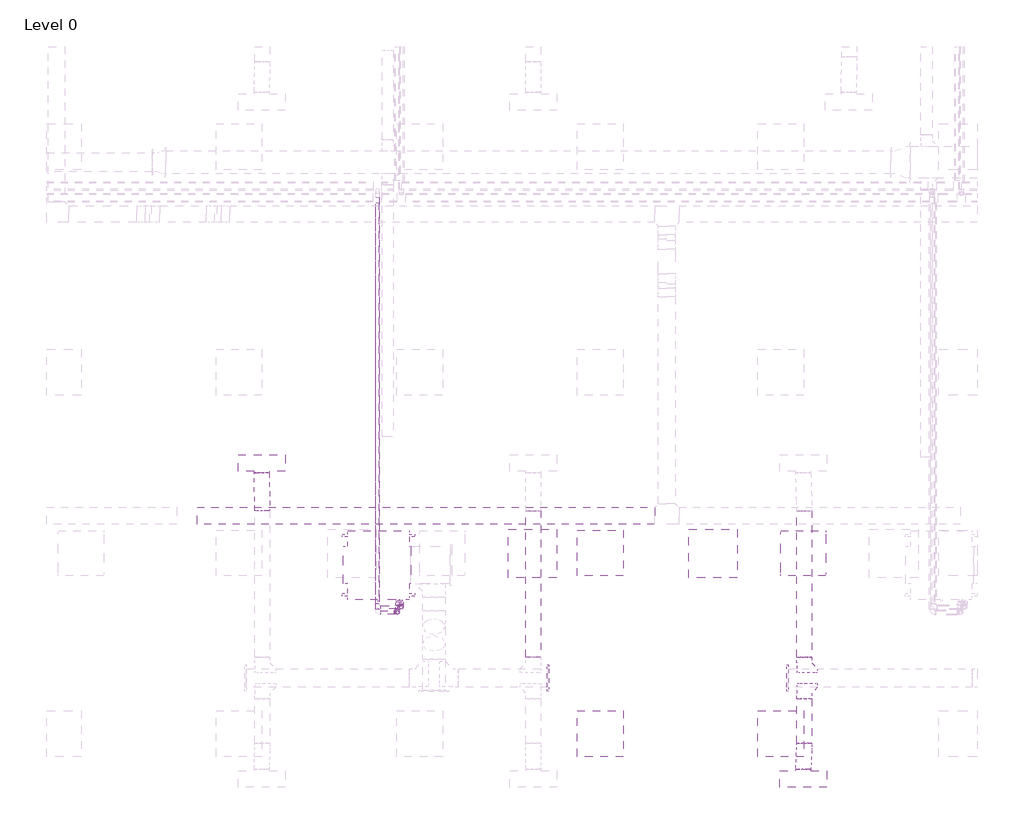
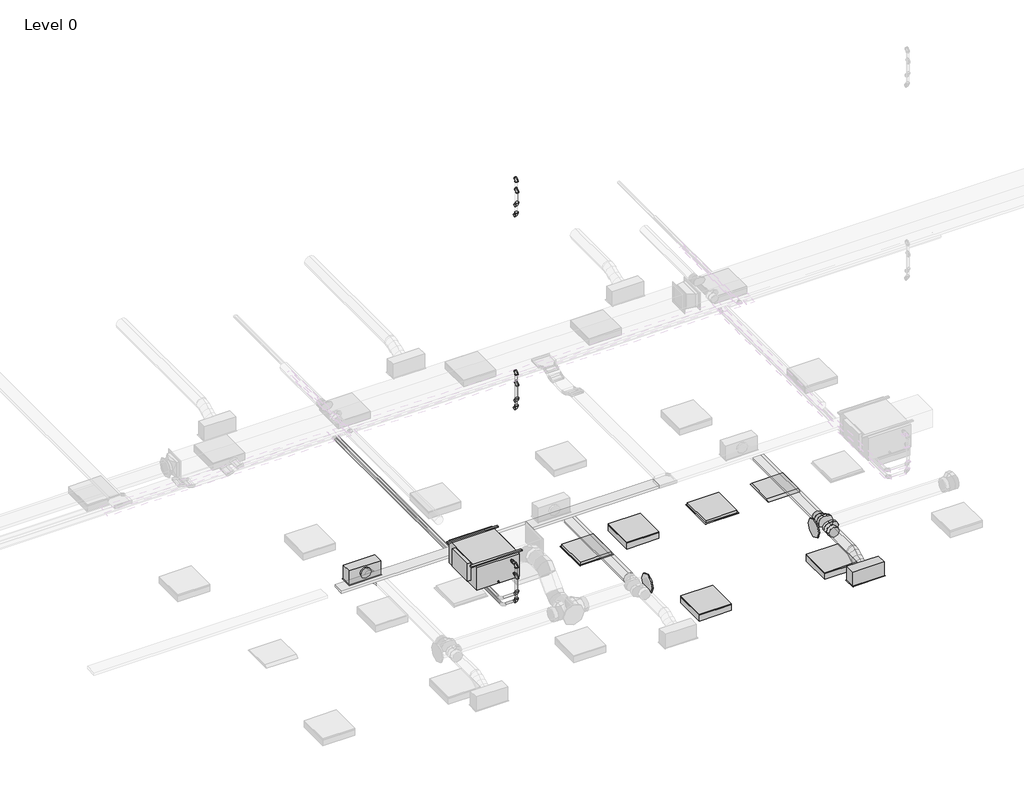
# One storey, part 9 of 34: 14 pipe fittings, 11 pipe segments, 5 duct segments, 4 air terminals, 4 duct fittings, 4 light fixtures, 1 cable carrier segment, 1 proxy.
"""IFC4 building model written with IfcOpenShell, lengths in millimetres."""

from ifc_helpers import new_model, si_unit, point, frame, frame_2d, origin, place, context, project, spatial, polyline, circle_curve, ellipse_curve, trimmed, segment, composite_curve, outline, extrude, transform, mapped, element, save
from ifc_brep_helpers import plane_surface, cylinder_surface, advanced_brep
from components import return_grille_rectangular_hosted_standard_7b12617c, supply_diffuser_with_plenum_linear_slot_hosted_8c379eed, fan_coil_unit_ceiling_ducted_chw_376_lps_05d42c19, dw144_round_blank_end_standard_9aa061e7, dw144_round_shoe_branch_slip_joint1_standard_2_15a2edd8, light_fixture_b730b5ca, troffer_light_2x2_parabolic_2_x2_2_lamp_120v_6a063ff3, elbow_threaded_gmi_standard_b4aa7741, socket_reducing_threaded_gmi_standard_0a4076b8

model = new_model("IFC4")

# Units and contexts
model_context = context("Model", 3, world=origin())
ifc_project = project(units=[si_unit("LENGTHUNIT", "METRE", prefix="MILLI")], contexts=[model_context])

# Site, building, storey
site = spatial("IfcSite", under=ifc_project)
building = spatial("IfcBuilding", under=site)
storey = spatial("IfcBuildingStorey", under=building, Name="Level 0", Elevation=0.0)

# Air terminals
placement = place(None, origin())
return_grille_rectangular_hosted_standard_shape = return_grille_rectangular_hosted_standard_7b12617c(model_context)
element("IfcAirTerminal", 1, ObjectType="Return Grille - Rectangular - Hosted : Standard", at=placement, inside=storey, context=model_context, shape_type="MappedRepresentation", body=[
    mapped(return_grille_rectangular_hosted_standard_shape, transform((19962.2000027, 3963.2000004, 2800.0), x_axis=(1.0, 0.0, 0.0), y_axis=(0.0, -1.0, 0.0), z_axis=(0.0, 0.0, -1.0))),
])
element("IfcAirTerminal", 2, ObjectType="Return Grille - Rectangular - Hosted : Standard", at=placement, inside=storey, context=model_context, shape_type="MappedRepresentation", body=[
    mapped(return_grille_rectangular_hosted_standard_shape, transform((22362.2000027, 3963.2000004, 2800.0), x_axis=(0.0, -1.0, 0.0), y_axis=(-1.0, 0.0, 0.0), z_axis=(0.0, 0.0, -1.0))),
])
supply_diffuser_with_plenum_linear_slot_hosted_shape = supply_diffuser_with_plenum_linear_slot_hosted_8c379eed(model_context)
element("IfcAirTerminal", 3, ObjectType="Supply Diffuser with Plenum - Linear Slot - Hosted : 24\" x 8\"-200 In Inlet  4-Slot", at=placement, inside=storey, context=model_context, shape_type="MappedRepresentation", body=[
    mapped(supply_diffuser_with_plenum_linear_slot_hosted_shape, transform((23562.2000027, 963.2000004, 2800.0), x_axis=(1.0, 0.0, 0.0), y_axis=(0.0, -1.0, 0.0), z_axis=(0.0, 0.0, -1.0))),
])
element("IfcAirTerminal", 4, ObjectType="Supply Diffuser with Plenum - Linear Slot - Hosted : 24\" x 8\"-200 In Inlet  4-Slot", at=placement, inside=storey, context=model_context, shape_type="MappedRepresentation", body=[
    mapped(supply_diffuser_with_plenum_linear_slot_hosted_shape, transform((16362.2000027, 5163.2000004, 2800.0), x_axis=(-1.0, 0.0, 0.0), y_axis=(0.0, 1.0, 0.0), z_axis=(0.0, 0.0, -1.0))),
])

# Proxy
fan_coil_unit_ceiling_ducted_chw_376_lps_shape = fan_coil_unit_ceiling_ducted_chw_376_lps_05d42c19(model_context)
element("IfcBuildingElementProxy", 5, Name="Fan Coil Unit - Ceiling Ducted - CHW : 376 LPS", ObjectType="Fan Coil Unit - Ceiling Ducted - CHW : 376 LPS", at=placement, inside=storey, context=model_context, shape_type="MappedRepresentation", body=[
    mapped(fan_coil_unit_ceiling_ducted_chw_376_lps_shape, transform((18321.2561025, 4263.2000004, 3222.3911538), x_axis=(0.0, -1.0, 0.0), y_axis=(1.0, 0.0, 0.0), z_axis=(0.0, 0.0, 1.0))),
])

# Cable carrier segment
element("IfcCableCarrierSegment", 6, ObjectType="Perforated Cable Tray", at=placement, inside=storey, context=model_context, shape_type="SweptSolid", body=[
    extrude(outline(polyline([(21585.0028601, 4572.4103775), (21585.0028601, 4347.4103775), (15505.0028601, 4347.4103775), (15505.0028601, 4572.4103775), (21585.0028601, 4572.4103775)])), frame((0.0, 0.0, 3250.0), z_axis=(0.0, 0.0, 1.0), x_axis=(1.0, 0.0, 0.0)), (0.0, 0.0, 1.0), 50.0),
])

# Duct fittings
dw144_round_blank_end_standard_shape = dw144_round_blank_end_standard_9aa061e7(model_context)
element("IfcDuctFitting", 7, ObjectType="DW144 Round Blank End : Standard", at=placement, inside=storey, context=model_context, shape_type="MappedRepresentation", body=[
    mapped(dw144_round_blank_end_standard_shape, transform((20161.4561025, 2306.5018192, 3072.2088531), x_axis=(1.0, 0.0, 0.0), y_axis=(0.0, 1.0, 0.0), z_axis=(0.0, 0.0, 1.0))),
])
element("IfcDuctFitting", 8, ObjectType="DW144 Round Blank End : Standard", at=placement, inside=storey, context=model_context, shape_type="MappedRepresentation", body=[
    mapped(dw144_round_blank_end_standard_shape, transform((23361.4561025, 2306.5018192, 3072.2088531), x_axis=(-1.0, 0.0, 0.0), y_axis=(0.0, -1.0, 0.0), z_axis=(0.0, 0.0, 1.0))),
])
dw144_round_shoe_branch_slip_joint1_standard_2_shape = dw144_round_shoe_branch_slip_joint1_standard_2_15a2edd8(model_context)
element("IfcDuctFitting", 9, ObjectType="DW144 Round Shoe Branch - Slip Joint1 : Standard 2", at=placement, inside=storey, context=model_context, shape_type="MappedRepresentation", body=[
    mapped(dw144_round_shoe_branch_slip_joint1_standard_2_shape, transform((23573.9000022, 2181.5018192, 3072.2088531), x_axis=(0.0, -1.0, 0.0), y_axis=(-1.0, 0.0, 0.0), z_axis=(0.0, 0.0, -1.0))),
])
element("IfcDuctFitting", 10, ObjectType="DW144 Round Shoe Branch - Slip Joint1 : Standard 2", at=placement, inside=storey, context=model_context, shape_type="MappedRepresentation", body=[
    mapped(dw144_round_shoe_branch_slip_joint1_standard_2_shape, transform((23573.9000022, 2431.5018192, 3072.2088531), x_axis=(0.0, 1.0, 0.0), y_axis=(-1.0, 0.0, 0.0), z_axis=(0.0, 0.0, 1.0))),
])

# Duct segments
element("IfcDuctSegment", 11, ObjectType="DW144 Segmented Bend / Shoe Branch", at=placement, inside=storey, context=model_context, shape_type="SweptSolid", body=[
    extrude(outline(composite_curve([segment(trimmed(circle_curve(frame_2d((3072.2088531, 19973.9000022)), 100.0), [point((3072.2088531, 20073.9000022))], [point((3172.2088531, 19973.9000022))], False, "CARTESIAN"), True, "CONTINUOUS"), segment(trimmed(circle_curve(frame_2d((3072.2088531, 19973.9000022)), 100.0), [point((3172.2088531, 19973.9000022))], [point((3072.2088531, 19873.9000022))], False, "CARTESIAN"), True, "CONTINUOUS"), segment(trimmed(circle_curve(frame_2d((3072.2088531, 19973.9000022)), 100.0), [point((3072.2088531, 19873.9000022))], [point((2972.2088531, 19973.9000022))], False, "CARTESIAN"), True, "CONTINUOUS"), segment(trimmed(circle_curve(frame_2d((3072.2088531, 19973.9000022)), 100.0), [point((2972.2088531, 19973.9000022))], [point((3072.2088531, 20073.9000022))], False, "CARTESIAN"), True, "CONTINUOUS")], self_intersect=False)), frame((0.0, 2581.5018192, 0.0), z_axis=(0.0, 1.0, 0.0), x_axis=(0.0, 0.0, 1.0)), (0.0, 0.0, 1.0), 1950.0),
])
element("IfcDuctSegment", 12, ObjectType="DW144 Segmented Bend / Shoe Branch", at=placement, inside=storey, context=model_context, shape_type="SweptSolid", body=[
    extrude(outline(composite_curve([segment(trimmed(circle_curve(frame_2d((3072.2088531, 23573.9000022)), 100.0), [point((3072.2088531, 23673.9000022))], [point((3172.2088531, 23573.9000022))], False, "CARTESIAN"), True, "CONTINUOUS"), segment(trimmed(circle_curve(frame_2d((3072.2088531, 23573.9000022)), 100.0), [point((3172.2088531, 23573.9000022))], [point((3072.2088531, 23473.9000022))], False, "CARTESIAN"), True, "CONTINUOUS"), segment(trimmed(circle_curve(frame_2d((3072.2088531, 23573.9000022)), 100.0), [point((3072.2088531, 23473.9000022))], [point((2972.2088531, 23573.9000022))], False, "CARTESIAN"), True, "CONTINUOUS"), segment(trimmed(circle_curve(frame_2d((3072.2088531, 23573.9000022)), 100.0), [point((2972.2088531, 23573.9000022))], [point((3072.2088531, 23673.9000022))], False, "CARTESIAN"), True, "CONTINUOUS")], self_intersect=False)), frame((0.0, 1441.5018192, 0.0), z_axis=(0.0, 1.0, 0.0), x_axis=(0.0, 0.0, 1.0)), (0.0, 0.0, 1.0), 590.0),
])
element("IfcDuctSegment", 13, ObjectType="DW144 Segmented Bend / Shoe Branch", at=placement, inside=storey, context=model_context, shape_type="SweptSolid", body=[
    extrude(outline(composite_curve([segment(trimmed(circle_curve(frame_2d((3072.2088531, 23573.9000022)), 100.0), [point((3072.2088531, 23673.9000022))], [point((3172.2088531, 23573.9000022))], False, "CARTESIAN"), True, "CONTINUOUS"), segment(trimmed(circle_curve(frame_2d((3072.2088531, 23573.9000022)), 100.0), [point((3172.2088531, 23573.9000022))], [point((3072.2088531, 23473.9000022))], False, "CARTESIAN"), True, "CONTINUOUS"), segment(trimmed(circle_curve(frame_2d((3072.2088531, 23573.9000022)), 100.0), [point((3072.2088531, 23473.9000022))], [point((2972.2088531, 23573.9000022))], False, "CARTESIAN"), True, "CONTINUOUS"), segment(trimmed(circle_curve(frame_2d((3072.2088531, 23573.9000022)), 100.0), [point((2972.2088531, 23573.9000022))], [point((3072.2088531, 23673.9000022))], False, "CARTESIAN"), True, "CONTINUOUS")], self_intersect=False)), frame((0.0, 2581.5018192, 0.0), z_axis=(0.0, 1.0, 0.0), x_axis=(0.0, 0.0, 1.0)), (0.0, 0.0, 1.0), 1950.0),
])
element("IfcDuctSegment", 14, ObjectType="Flex - Round", at=placement, inside=storey, context=model_context, shape_type="AdvancedBrep", body=[
    advanced_brep(
    [(16273.9000022, 4531.5018192, 3072.2088531), (16373.9000022, 4531.5018192, 2972.2088531), (16473.9000022, 4531.5018192, 3072.2088531), (16373.9000022, 4531.5018192, 3172.2088531), (16273.9000022, 4545.0398748, 3072.2088531), (16373.9000022, 4537.729612, 2972.2088531), (16473.9000022, 4546.6519942, 3072.2088531), (16373.9000022, 4553.962257, 3172.2088531), (16262.2000027, 5034.3000004, 2954.4), (16362.2000027, 5034.3000004, 3054.4), (16462.2000027, 5034.3000004, 2954.4), (16362.2000027, 5034.3000004, 2854.4), (16272.0969471, 4656.1396088, 3054.0536514), (16372.3243089, 4634.8198875, 2956.3429867), (16472.0468075, 4660.8412095, 3053.5487883), (16371.8194457, 4682.1609309, 3151.2594529), (16268.0984043, 4779.8283707, 3013.7917909), (16368.5373668, 4751.9631047, 2918.2117629), (16468.0016006, 4785.9734489, 3012.8170622), (16367.5626381, 4813.8387149, 3108.3970903), (16264.0531974, 4904.9606101, 2973.0600649), (16364.2805591, 4883.6408888, 2875.3494002), (16464.0030578, 4909.6622108, 2972.5552017), (16363.775696, 4930.9819322, 3070.2658664), (16262.2000027, 5019.1498254, 2954.4), (16362.2000027, 5011.8395627, 2854.4), (16462.2000027, 5020.7619448, 2954.4), (16362.2000027, 5028.0722076, 3054.4)],
    [
        (0, 1, circle_curve(frame((16373.9000022, 4531.5018192, 3072.2088531), z_axis=(0.0, -1.0, 0.0), x_axis=(-1.0, 0.0, 0.0)), 100.0)),
        (1, 2, circle_curve(frame((16373.9000022, 4531.5018192, 3072.2088531), z_axis=(0.0, -1.0, 0.0), x_axis=(-1.0, 0.0, 0.0)), 100.0)),
        (2, 3, circle_curve(frame((16373.9000022, 4531.5018192, 3072.2088531), z_axis=(0.0, -1.0, 0.0), x_axis=(-1.0, 0.0, 0.0)), 100.0)),
        (3, 0, circle_curve(frame((16373.9000022, 4531.5018192, 3072.2088531), z_axis=(0.0, -1.0, 0.0), x_axis=(-1.0, 0.0, 0.0)), 100.0)),
        (0, 4),
        (4, 5, ellipse_curve(frame((16373.9000022, 4545.8459345, 3072.2088531), z_axis=(0.008033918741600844, -0.9966902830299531, 0.08089459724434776), x_axis=(-0.09850014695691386, -0.08129255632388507, -0.9918110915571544)), 100.3320708, 100.0)),
        (5, 1),
        (5, 6, ellipse_curve(frame((16373.9000022, 4545.8459345, 3072.2088531), z_axis=(0.008033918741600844, -0.9966902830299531, 0.08089459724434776), x_axis=(-0.09850014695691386, -0.08129255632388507, -0.9918110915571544)), 100.3320708, 100.0)),
        (6, 2),
        (6, 7, ellipse_curve(frame((16373.9000022, 4545.8459345, 3072.2088531), z_axis=(0.008033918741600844, -0.9966902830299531, 0.08089459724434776), x_axis=(-0.09850014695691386, -0.08129255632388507, -0.9918110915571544)), 100.3320708, 100.0)),
        (7, 3),
        (7, 4, ellipse_curve(frame((16373.9000022, 4545.8459345, 3072.2088531), z_axis=(0.008033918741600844, -0.9966902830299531, 0.08089459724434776), x_axis=(-0.09850014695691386, -0.08129255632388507, -0.9918110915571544)), 100.3320708, 100.0)),
        (8, 9, circle_curve(frame((16362.2000027, 5034.3000004, 2954.4), z_axis=(0.0, 1.0, 0.0), x_axis=(-1.0, 0.0, 0.0)), 100.0)),
        (9, 10, circle_curve(frame((16362.2000027, 5034.3000004, 2954.4), z_axis=(0.0, 1.0, 0.0), x_axis=(-1.0, 0.0, 0.0)), 100.0)),
        (10, 11, circle_curve(frame((16362.2000027, 5034.3000004, 2954.4), z_axis=(0.0, 1.0, 0.0), x_axis=(-1.0, 0.0, 0.0)), 100.0)),
        (11, 8, circle_curve(frame((16362.2000027, 5034.3000004, 2954.4), z_axis=(0.0, 1.0, 0.0), x_axis=(-1.0, 0.0, 0.0)), 100.0)),
        (4, 12),
        (12, 13, ellipse_curve(frame((16372.0718773, 4658.4904092, 3053.8012198), z_axis=(0.023438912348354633, -0.9714680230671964, 0.23600952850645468), x_axis=(-0.09600750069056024, -0.237170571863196, -0.9667123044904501)), 100.2947714, 100.0)),
        (13, 5),
        (13, 14, ellipse_curve(frame((16372.0718773, 4658.4904092, 3053.8012198), z_axis=(0.023438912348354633, -0.9714680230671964, 0.23600952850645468), x_axis=(-0.09600750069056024, -0.237170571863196, -0.9667123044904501)), 100.2947714, 100.0)),
        (14, 6),
        (14, 15, ellipse_curve(frame((16372.0718773, 4658.4904092, 3053.8012198), z_axis=(0.023438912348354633, -0.9714680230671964, 0.23600952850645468), x_axis=(-0.09600750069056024, -0.237170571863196, -0.9667123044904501)), 100.2947714, 100.0)),
        (15, 7),
        (15, 12, ellipse_curve(frame((16372.0718773, 4658.4904092, 3053.8012198), z_axis=(0.023438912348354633, -0.9714680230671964, 0.23600952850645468), x_axis=(-0.09600750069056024, -0.237170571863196, -0.9667123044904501)), 100.2947714, 100.0)),
        (12, 16),
        (16, 17, circle_curve(frame((16368.0500024, 4782.9009098, 3013.3044266), z_axis=(0.03072539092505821, -0.9504426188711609, 0.3093780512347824), x_axis=(-0.999515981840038, -0.030725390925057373, 0.0048736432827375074)), 100.0)),
        (17, 13),
        (17, 18, circle_curve(frame((16368.0500024, 4782.9009098, 3013.3044266), z_axis=(0.03072539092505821, -0.9504426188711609, 0.3093780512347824), x_axis=(-0.999515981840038, -0.030725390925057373, 0.0048736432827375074)), 100.0)),
        (18, 14),
        (18, 19, circle_curve(frame((16368.0500024, 4782.9009098, 3013.3044266), z_axis=(0.03072539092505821, -0.9504426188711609, 0.3093780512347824), x_axis=(-0.999515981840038, -0.030725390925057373, 0.0048736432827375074)), 100.0)),
        (19, 15),
        (19, 16, circle_curve(frame((16368.0500024, 4782.9009098, 3013.3044266), z_axis=(0.03072539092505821, -0.9504426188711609, 0.3093780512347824), x_axis=(-0.999515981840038, -0.030725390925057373, 0.0048736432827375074)), 100.0)),
        (16, 20),
        (20, 21, ellipse_curve(frame((16364.0281276, 4907.3114105, 2972.8076333), z_axis=(0.023438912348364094, -0.9714680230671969, 0.23600952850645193), x_axis=(0.0960075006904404, 0.23717057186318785, 0.966712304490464)), 100.2947714, 100.0)),
        (21, 17),
        (21, 22, ellipse_curve(frame((16364.0281276, 4907.3114105, 2972.8076333), z_axis=(0.023438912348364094, -0.9714680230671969, 0.23600952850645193), x_axis=(0.0960075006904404, 0.23717057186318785, 0.966712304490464)), 100.2947714, 100.0)),
        (22, 18),
        (22, 23, ellipse_curve(frame((16364.0281276, 4907.3114105, 2972.8076333), z_axis=(0.023438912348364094, -0.9714680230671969, 0.23600952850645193), x_axis=(0.0960075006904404, 0.23717057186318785, 0.966712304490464)), 100.2947714, 100.0)),
        (23, 19),
        (23, 20, ellipse_curve(frame((16364.0281276, 4907.3114105, 2972.8076333), z_axis=(0.023438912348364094, -0.9714680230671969, 0.23600952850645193), x_axis=(0.0960075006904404, 0.23717057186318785, 0.966712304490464)), 100.2947714, 100.0)),
        (20, 24),
        (24, 25, ellipse_curve(frame((16362.2000027, 5019.9558851, 2954.4), z_axis=(0.008033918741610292, -0.9966902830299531, 0.08089459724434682), x_axis=(0.09850014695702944, 0.0812925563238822, 0.9918110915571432)), 100.3320708, 100.0)),
        (25, 21),
        (25, 26, ellipse_curve(frame((16362.2000027, 5019.9558851, 2954.4), z_axis=(0.008033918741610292, -0.9966902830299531, 0.08089459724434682), x_axis=(0.09850014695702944, 0.0812925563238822, 0.9918110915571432)), 100.3320708, 100.0)),
        (26, 22),
        (26, 27, ellipse_curve(frame((16362.2000027, 5019.9558851, 2954.4), z_axis=(0.008033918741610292, -0.9966902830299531, 0.08089459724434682), x_axis=(0.09850014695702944, 0.0812925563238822, 0.9918110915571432)), 100.3320708, 100.0)),
        (27, 23),
        (27, 24, ellipse_curve(frame((16362.2000027, 5019.9558851, 2954.4), z_axis=(0.008033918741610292, -0.9966902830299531, 0.08089459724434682), x_axis=(0.09850014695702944, 0.0812925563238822, 0.9918110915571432)), 100.3320708, 100.0)),
        (24, 8),
        (11, 25),
        (10, 26),
        (9, 27),
    ],
    [
        plane_surface(frame((16273.9000022, 4531.5018192, 3072.2088531), z_axis=(0.0, -1.0, 0.0), x_axis=(0.0, 0.0, 1.0))),
        cylinder_surface(frame((16373.9000022, 4531.5018192, 3072.2088531), z_axis=(0.0, -1.0, 0.0), x_axis=(-1.0, 0.0, 0.0)), 100.0),
        plane_surface(frame((16262.2000027, 5034.3000004, 2954.4), z_axis=(0.0, 1.0, 0.0), x_axis=(0.0, 0.0, 1.0))),
        cylinder_surface(frame((16373.9000022, 4545.8459345, 3072.2088531), z_axis=(0.01601465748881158, -0.9867830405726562, 0.16125371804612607), x_axis=(-0.9998709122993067, -0.01601465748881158, 0.0012998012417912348)), 100.0),
        cylinder_surface(frame((16372.0718773, 4658.4904092, 3053.8012198), z_axis=(0.03072539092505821, -0.9504426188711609, 0.3093780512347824), x_axis=(-0.999515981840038, -0.030725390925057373, 0.0048736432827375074)), 100.0),
        cylinder_surface(frame((16368.0500024, 4782.9009098, 3013.3044266), z_axis=(0.030725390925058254, -0.9504426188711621, 0.30937805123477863), x_axis=(-0.999515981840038, -0.0307253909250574, 0.004873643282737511)), 100.0),
        cylinder_surface(frame((16364.0281276, 4907.3114105, 2972.8076333), z_axis=(0.016014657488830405, -0.9867830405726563, 0.16125371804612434), x_axis=(-0.9998709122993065, -0.016014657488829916, 0.0012998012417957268)), 100.0),
        cylinder_surface(frame((16362.2000027, 5019.9558851, 2954.4), z_axis=(0.0, -1.0, 0.0), x_axis=(-1.0, 0.0, 0.0)), 100.0),
    ],
    [
        (0, [[1, 2, 3, 4]]),
        (1, [[-1, 5, 6, 7]]),
        (1, [[-2, -7, 8, 9]]),
        (1, [[-3, -9, 10, 11]]),
        (1, [[-4, -11, 12, -5]]),
        (2, [[13, 14, 15, 16]]),
        (3, [[-6, 17, 18, 19]]),
        (3, [[-8, -19, 20, 21]]),
        (3, [[-10, -21, 22, 23]]),
        (3, [[-12, -23, 24, -17]]),
        (4, [[-18, 25, 26, 27]]),
        (4, [[-20, -27, 28, 29]]),
        (4, [[-22, -29, 30, 31]]),
        (4, [[-24, -31, 32, -25]]),
        (5, [[-26, 33, 34, 35]]),
        (5, [[-28, -35, 36, 37]]),
        (5, [[-30, -37, 38, 39]]),
        (5, [[-32, -39, 40, -33]]),
        (6, [[-34, 41, 42, 43]]),
        (6, [[-36, -43, 44, 45]]),
        (6, [[-38, -45, 46, 47]]),
        (6, [[-40, -47, 48, -41]]),
        (7, [[-42, 49, -16, 50]]),
        (7, [[-44, -50, -15, 51]]),
        (7, [[-46, -51, -14, 52]]),
        (7, [[-48, -52, -13, -49]]),
    ],
),
])
element("IfcDuctSegment", 15, ObjectType="Flex - Round", at=placement, inside=storey, context=model_context, shape_type="AdvancedBrep", body=[
    advanced_brep(
    [(23673.9000022, 1441.5018192, 3072.2088531), (23573.9000022, 1441.5018192, 2972.2088531), (23473.9000022, 1441.5018192, 3072.2088531), (23573.9000022, 1441.5018192, 3172.2088531), (23673.9000022, 1419.9886644, 3072.2088531), (23573.9000022, 1434.4041273, 2972.2088531), (23473.9000022, 1422.5932881, 3072.2088531), (23573.9000022, 1408.1778252, 3172.2088531), (23662.2000027, 1092.1000004, 2954.4), (23562.2000027, 1092.1000004, 3054.4), (23462.2000027, 1092.1000004, 2954.4), (23562.2000027, 1092.1000004, 2854.4), (23672.0154345, 1348.8904029, 3053.2328893), (23572.6402079, 1386.8764181, 2959.5238159), (23472.1283201, 1355.7538157, 3054.3695504), (23571.5035467, 1317.7678004, 3148.0786237), (23667.9552415, 1262.5544078, 3012.3502664), (23569.0041626, 1309.5595036, 2922.9119919), (23468.1447633, 1271.0474118, 3014.2585867), (23567.0958423, 1224.0423161, 3103.6968612), (23663.9716847, 1177.8480039, 2972.2393027), (23564.5964582, 1215.8340192, 2878.5302294), (23464.0845704, 1184.7114168, 2973.3759639), (23563.459797, 1146.7254015, 3067.0850372), (23662.2000027, 1111.0085316, 2954.4), (23562.2000027, 1125.4239944, 2854.4), (23462.2000027, 1113.6131552, 2954.4), (23562.2000027, 1099.1976924, 3054.4)],
    [
        (0, 1, circle_curve(frame((23573.9000022, 1441.5018192, 3072.2088531), z_axis=(0.0, 1.0, 0.0), x_axis=(1.0, 0.0, 0.0)), 100.0)),
        (1, 2, circle_curve(frame((23573.9000022, 1441.5018192, 3072.2088531), z_axis=(0.0, 1.0, 0.0), x_axis=(1.0, 0.0, 0.0)), 100.0)),
        (2, 3, circle_curve(frame((23573.9000022, 1441.5018192, 3072.2088531), z_axis=(0.0, 1.0, 0.0), x_axis=(1.0, 0.0, 0.0)), 100.0)),
        (3, 0, circle_curve(frame((23573.9000022, 1441.5018192, 3072.2088531), z_axis=(0.0, 1.0, 0.0), x_axis=(1.0, 0.0, 0.0)), 100.0)),
        (0, 4),
        (4, 5, ellipse_curve(frame((23573.9000022, 1421.2909763, 3072.2088531), z_axis=(0.012911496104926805, 0.991428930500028, 0.13000757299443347), x_axis=(-0.0979801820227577, 0.13064714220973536, -0.986575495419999)), 100.8645168, 100.0)),
        (5, 1),
        (5, 6, ellipse_curve(frame((23573.9000022, 1421.2909763, 3072.2088531), z_axis=(0.012911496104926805, 0.991428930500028, 0.13000757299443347), x_axis=(-0.0979801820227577, 0.13064714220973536, -0.986575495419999)), 100.8645168, 100.0)),
        (6, 2),
        (6, 7, ellipse_curve(frame((23573.9000022, 1421.2909763, 3072.2088531), z_axis=(0.012911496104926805, 0.991428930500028, 0.13000757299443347), x_axis=(-0.0979801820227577, 0.13064714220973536, -0.986575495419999)), 100.8645168, 100.0)),
        (7, 3),
        (7, 4, ellipse_curve(frame((23573.9000022, 1421.2909763, 3072.2088531), z_axis=(0.012911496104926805, 0.991428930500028, 0.13000757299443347), x_axis=(-0.0979801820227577, 0.13064714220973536, -0.986575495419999)), 100.8645168, 100.0)),
        (8, 9, circle_curve(frame((23562.2000027, 1092.1000004, 2954.4), z_axis=(0.0, -1.0, 0.0), x_axis=(1.0, 0.0, 0.0)), 100.0)),
        (9, 10, circle_curve(frame((23562.2000027, 1092.1000004, 2954.4), z_axis=(0.0, -1.0, 0.0), x_axis=(1.0, 0.0, 0.0)), 100.0)),
        (10, 11, circle_curve(frame((23562.2000027, 1092.1000004, 2954.4), z_axis=(0.0, -1.0, 0.0), x_axis=(1.0, 0.0, 0.0)), 100.0)),
        (11, 8, circle_curve(frame((23562.2000027, 1092.1000004, 2954.4), z_axis=(0.0, -1.0, 0.0), x_axis=(1.0, 0.0, 0.0)), 100.0)),
        (4, 12),
        (12, 13, ellipse_curve(frame((23572.0718773, 1352.3221093, 3053.8012198), z_axis=(0.03417490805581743, 0.9383065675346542, 0.34411169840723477), x_axis=(-0.09273024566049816, 0.34580454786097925, -0.9337131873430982)), 100.4159667, 100.0)),
        (13, 5),
        (13, 14, ellipse_curve(frame((23572.0718773, 1352.3221093, 3053.8012198), z_axis=(0.03417490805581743, 0.9383065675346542, 0.34411169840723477), x_axis=(-0.09273024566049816, 0.34580454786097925, -0.9337131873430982)), 100.4159667, 100.0)),
        (14, 6),
        (14, 15, ellipse_curve(frame((23572.0718773, 1352.3221093, 3053.8012198), z_axis=(0.03417490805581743, 0.9383065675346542, 0.34411169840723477), x_axis=(-0.09273024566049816, 0.34580454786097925, -0.9337131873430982)), 100.4159667, 100.0)),
        (15, 7),
        (15, 12, ellipse_curve(frame((23572.0718773, 1352.3221093, 3053.8012198), z_axis=(0.03417490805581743, 0.9383065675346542, 0.34411169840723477), x_axis=(-0.09273024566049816, 0.34580454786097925, -0.9337131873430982)), 100.4159667, 100.0)),
        (12, 16),
        (16, 17, circle_curve(frame((23568.0500024, 1266.8009098, 3013.3044266), z_axis=(0.04246501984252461, 0.9029767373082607, 0.42758593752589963), x_axis=(0.9990523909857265, -0.042465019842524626, -0.009541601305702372)), 100.0)),
        (17, 13),
        (17, 18, circle_curve(frame((23568.0500024, 1266.8009098, 3013.3044266), z_axis=(0.04246501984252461, 0.9029767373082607, 0.42758593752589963), x_axis=(0.9990523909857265, -0.042465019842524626, -0.009541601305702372)), 100.0)),
        (18, 14),
        (18, 19, circle_curve(frame((23568.0500024, 1266.8009098, 3013.3044266), z_axis=(0.04246501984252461, 0.9029767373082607, 0.42758593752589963), x_axis=(0.9990523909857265, -0.042465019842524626, -0.009541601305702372)), 100.0)),
        (19, 15),
        (19, 16, circle_curve(frame((23568.0500024, 1266.8009098, 3013.3044266), z_axis=(0.04246501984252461, 0.9029767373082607, 0.42758593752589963), x_axis=(0.9990523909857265, -0.042465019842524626, -0.009541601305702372)), 100.0)),
        (16, 20),
        (20, 21, ellipse_curve(frame((23564.0281276, 1181.2797104, 2972.8076333), z_axis=(0.03417490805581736, 0.9383065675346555, 0.34411169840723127), x_axis=(0.09273024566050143, -0.345804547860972, 0.9337131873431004)), 100.4159667, 100.0)),
        (21, 17),
        (21, 22, ellipse_curve(frame((23564.0281276, 1181.2797104, 2972.8076333), z_axis=(0.03417490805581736, 0.9383065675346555, 0.34411169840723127), x_axis=(0.09273024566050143, -0.345804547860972, 0.9337131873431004)), 100.4159667, 100.0)),
        (22, 18),
        (22, 23, ellipse_curve(frame((23564.0281276, 1181.2797104, 2972.8076333), z_axis=(0.03417490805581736, 0.9383065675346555, 0.34411169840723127), x_axis=(0.09273024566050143, -0.345804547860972, 0.9337131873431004)), 100.4159667, 100.0)),
        (23, 19),
        (23, 20, ellipse_curve(frame((23564.0281276, 1181.2797104, 2972.8076333), z_axis=(0.03417490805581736, 0.9383065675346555, 0.34411169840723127), x_axis=(0.09273024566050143, -0.345804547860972, 0.9337131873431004)), 100.4159667, 100.0)),
        (20, 24),
        (24, 25, ellipse_curve(frame((23562.2000027, 1112.3108434, 2954.4), z_axis=(0.012911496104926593, 0.9914289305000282, 0.13000757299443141), x_axis=(0.09798018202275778, -0.1306471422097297, 0.9865754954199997)), 100.8645168, 100.0)),
        (25, 21),
        (25, 26, ellipse_curve(frame((23562.2000027, 1112.3108434, 2954.4), z_axis=(0.012911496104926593, 0.9914289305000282, 0.13000757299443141), x_axis=(0.09798018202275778, -0.1306471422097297, 0.9865754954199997)), 100.8645168, 100.0)),
        (26, 22),
        (26, 27, ellipse_curve(frame((23562.2000027, 1112.3108434, 2954.4), z_axis=(0.012911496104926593, 0.9914289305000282, 0.13000757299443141), x_axis=(0.09798018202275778, -0.1306471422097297, 0.9865754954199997)), 100.8645168, 100.0)),
        (27, 23),
        (27, 24, ellipse_curve(frame((23562.2000027, 1112.3108434, 2954.4), z_axis=(0.012911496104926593, 0.9914289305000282, 0.13000757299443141), x_axis=(0.09798018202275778, -0.1306471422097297, 0.9865754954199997)), 100.8645168, 100.0)),
        (24, 8),
        (11, 25),
        (10, 26),
        (9, 27),
    ],
    [
        plane_surface(frame((23473.9000022, 1441.5018192, 3072.2088531), z_axis=(0.0, 1.0, 0.0), x_axis=(0.0, 0.0, -1.0))),
        cylinder_surface(frame((23573.9000022, 1441.5018192, 3072.2088531), z_axis=(0.0, 1.0, 0.0), x_axis=(1.0, 0.0, 0.0)), 100.0),
        plane_surface(frame((23462.2000027, 1092.1000004, 2954.4), z_axis=(0.0, -1.0, 0.0), x_axis=(0.0, 0.0, -1.0))),
        cylinder_surface(frame((23573.9000022, 1421.2909763, 3072.2088531), z_axis=(0.025601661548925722, 0.9658626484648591, 0.25778653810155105), x_axis=(0.999666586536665, -0.025601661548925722, -0.00335718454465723)), 100.0),
        cylinder_surface(frame((23572.0718773, 1352.3221093, 3053.8012198), z_axis=(0.04246501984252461, 0.9029767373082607, 0.42758593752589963), x_axis=(0.9990523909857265, -0.042465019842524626, -0.009541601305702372)), 100.0),
        cylinder_surface(frame((23568.0500024, 1266.8009098, 3013.3044266), z_axis=(0.04246501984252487, 0.9029767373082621, 0.4275859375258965), x_axis=(0.9990523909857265, -0.04246501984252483, -0.009541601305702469)), 100.0),
        cylinder_surface(frame((23564.0281276, 1181.2797104, 2972.8076333), z_axis=(0.025601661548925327, 0.9658626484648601, 0.2577865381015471), x_axis=(0.9996665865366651, -0.025601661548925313, -0.003357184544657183)), 100.0),
        cylinder_surface(frame((23562.2000027, 1112.3108434, 2954.4), z_axis=(0.0, 1.0, 0.0), x_axis=(1.0, 0.0, 0.0)), 100.0),
    ],
    [
        (0, [[1, 2, 3, 4]]),
        (1, [[-1, 5, 6, 7]]),
        (1, [[-2, -7, 8, 9]]),
        (1, [[-3, -9, 10, 11]]),
        (1, [[-4, -11, 12, -5]]),
        (2, [[13, 14, 15, 16]]),
        (3, [[-6, 17, 18, 19]]),
        (3, [[-8, -19, 20, 21]]),
        (3, [[-10, -21, 22, 23]]),
        (3, [[-12, -23, 24, -17]]),
        (4, [[-18, 25, 26, 27]]),
        (4, [[-20, -27, 28, 29]]),
        (4, [[-22, -29, 30, 31]]),
        (4, [[-24, -31, 32, -25]]),
        (5, [[-26, 33, 34, 35]]),
        (5, [[-28, -35, 36, 37]]),
        (5, [[-30, -37, 38, 39]]),
        (5, [[-32, -39, 40, -33]]),
        (6, [[-34, 41, 42, 43]]),
        (6, [[-36, -43, 44, 45]]),
        (6, [[-38, -45, 46, 47]]),
        (6, [[-40, -47, 48, -41]]),
        (7, [[-42, 49, -16, 50]]),
        (7, [[-44, -50, -15, 51]]),
        (7, [[-46, -51, -14, 52]]),
        (7, [[-48, -52, -13, -49]]),
    ],
),
])

# Light fixtures
light_fixture_shape = light_fixture_b730b5ca(model_context)
element("IfcLightFixture", 16, ObjectType="ELEKTRA EM Recessed Lighting Fixture : 24\" x 24\" - 230", at=placement, inside=storey, context=model_context, shape_type="MappedRepresentation", body=[
    mapped(light_fixture_shape, transform((23262.2000027, 3663.2000004, 2800.0), x_axis=(1.0, 0.0, 0.0), y_axis=(0.0, -1.0, 0.0), z_axis=(0.0, 0.0, -1.0))),
])
troffer_light_2x2_parabolic_2_x2_2_lamp_120v_shape = troffer_light_2x2_parabolic_2_x2_2_lamp_120v_6a063ff3(model_context)
element("IfcLightFixture", 17, ObjectType="Troffer Light - 2x2 Parabolic : 2'x2'(2 Lamp) - 120V", at=placement, inside=storey, context=model_context, shape_type="MappedRepresentation", body=[
    mapped(troffer_light_2x2_parabolic_2_x2_2_lamp_120v_shape, transform((20862.2000027, 1263.2000004, 2800.0), x_axis=(1.0, 0.0, 0.0), y_axis=(0.0, -1.0, 0.0), z_axis=(0.0, 0.0, -1.0))),
])
element("IfcLightFixture", 18, ObjectType="Troffer Light - 2x2 Parabolic : 2'x2'(2 Lamp) - 120V", at=placement, inside=storey, context=model_context, shape_type="MappedRepresentation", body=[
    mapped(troffer_light_2x2_parabolic_2_x2_2_lamp_120v_shape, transform((23262.2000027, 1263.2000004, 2800.0), x_axis=(1.0, 0.0, 0.0), y_axis=(0.0, -1.0, 0.0), z_axis=(0.0, 0.0, -1.0))),
])
element("IfcLightFixture", 19, ObjectType="Troffer Light - 2x2 Parabolic : 2'x2'(2 Lamp) - 120V", at=placement, inside=storey, context=model_context, shape_type="MappedRepresentation", body=[
    mapped(troffer_light_2x2_parabolic_2_x2_2_lamp_120v_shape, transform((20862.2000027, 3663.2000004, 2800.0), x_axis=(1.0, 0.0, 0.0), y_axis=(0.0, -1.0, 0.0), z_axis=(0.0, 0.0, -1.0))),
])

# Pipe fittings
elbow_threaded_gmi_standard_shape = elbow_threaded_gmi_standard_b4aa7741(model_context)
element("IfcPipeFitting", 20, ObjectType="Elbow - Threaded - GMI : Standard", at=placement, inside=storey, context=model_context, shape_type="MappedRepresentation", body=[
    mapped(elbow_threaded_gmi_standard_shape, transform((18168.8561025, 3177.232951, 10693.9343179), x_axis=(0.0, 0.0, -1.0), y_axis=(-1.0, 0.0, 0.0), z_axis=(0.0, 1.0, 0.0))),
])
element("IfcPipeFitting", 21, ObjectType="Elbow - Threaded - GMI : Standard", at=placement, inside=storey, context=model_context, shape_type="MappedRepresentation", body=[
    mapped(elbow_threaded_gmi_standard_shape, transform((18219.6561025, 3246.7427522, 10834.6193977), x_axis=(0.0, 0.0, -1.0), y_axis=(-1.0, 0.0, 0.0), z_axis=(0.0, 1.0, 0.0))),
])
element("IfcPipeFitting", 22, ObjectType="Elbow - Threaded - GMI : Standard", at=placement, inside=storey, context=model_context, shape_type="MappedRepresentation", body=[
    mapped(elbow_threaded_gmi_standard_shape, transform((18219.6561025, 3246.7427522, 11123.9911538), x_axis=(0.0, 0.0, 1.0), y_axis=(0.0, 1.0, 0.0), z_axis=(-1.0, 0.0, 0.0))),
])
element("IfcPipeFitting", 23, ObjectType="Elbow - Threaded - GMI : Standard", at=placement, inside=storey, context=model_context, shape_type="MappedRepresentation", body=[
    mapped(elbow_threaded_gmi_standard_shape, transform((18168.8561025, 3177.232951, 11403.3911538), x_axis=(0.0, 0.0, 1.0), y_axis=(0.0, 1.0, 0.0), z_axis=(-1.0, 0.0, 0.0))),
])
element("IfcPipeFitting", 24, ObjectType="Elbow - Threaded - GMI : Standard", at=placement, inside=storey, context=model_context, shape_type="MappedRepresentation", body=[
    mapped(elbow_threaded_gmi_standard_shape, transform((18168.8561025, 3177.232951, 6793.9343179), x_axis=(0.0, 0.0, -1.0), y_axis=(-1.0, 0.0, 0.0), z_axis=(0.0, 1.0, 0.0))),
])
element("IfcPipeFitting", 25, ObjectType="Elbow - Threaded - GMI : Standard", at=placement, inside=storey, context=model_context, shape_type="MappedRepresentation", body=[
    mapped(elbow_threaded_gmi_standard_shape, transform((18219.6561025, 3246.7427522, 6880.0), x_axis=(0.0, 0.0, -1.0), y_axis=(-1.0, 0.0, 0.0), z_axis=(0.0, 1.0, 0.0))),
])
element("IfcPipeFitting", 26, ObjectType="Elbow - Threaded - GMI : Standard", at=placement, inside=storey, context=model_context, shape_type="MappedRepresentation", body=[
    mapped(elbow_threaded_gmi_standard_shape, transform((18168.8561025, 3177.232951, 7503.3911538), x_axis=(0.0, 0.0, 1.0), y_axis=(0.0, 1.0, 0.0), z_axis=(-1.0, 0.0, 0.0))),
])
element("IfcPipeFitting", 27, ObjectType="Elbow - Threaded - GMI : Standard", at=placement, inside=storey, context=model_context, shape_type="MappedRepresentation", body=[
    mapped(elbow_threaded_gmi_standard_shape, transform((18219.6561025, 3246.7427522, 7223.9911538), x_axis=(0.0, 0.0, 1.0), y_axis=(0.0, 1.0, 0.0), z_axis=(-1.0, 0.0, 0.0))),
])
element("IfcPipeFitting", 28, ObjectType="Elbow - Threaded - GMI : Standard", at=placement, inside=storey, context=model_context, shape_type="MappedRepresentation", body=[
    mapped(elbow_threaded_gmi_standard_shape, transform((18168.8561025, 3177.232951, 2893.9343179), x_axis=(0.0, 0.0, -1.0), y_axis=(-1.0, 0.0, 0.0), z_axis=(0.0, 1.0, 0.0))),
])
element("IfcPipeFitting", 29, ObjectType="Elbow - Threaded - GMI : Standard", at=placement, inside=storey, context=model_context, shape_type="MappedRepresentation", body=[
    mapped(elbow_threaded_gmi_standard_shape, transform((18219.6561025, 3246.7427522, 2980.0), x_axis=(0.0, 0.0, -1.0), y_axis=(-1.0, 0.0, 0.0), z_axis=(0.0, 1.0, 0.0))),
])
element("IfcPipeFitting", 30, ObjectType="Elbow - Threaded - GMI : Standard", at=placement, inside=storey, context=model_context, shape_type="MappedRepresentation", body=[
    mapped(elbow_threaded_gmi_standard_shape, transform((18168.8561025, 3177.232951, 3603.3911538), x_axis=(0.0, 0.0, 1.0), y_axis=(0.0, 1.0, 0.0), z_axis=(-1.0, 0.0, 0.0))),
])
element("IfcPipeFitting", 31, ObjectType="Elbow - Threaded - GMI : Standard", at=placement, inside=storey, context=model_context, shape_type="MappedRepresentation", body=[
    mapped(elbow_threaded_gmi_standard_shape, transform((18219.6561025, 3246.7427522, 3323.9911538), x_axis=(0.0, 0.0, 1.0), y_axis=(0.0, 1.0, 0.0), z_axis=(-1.0, 0.0, 0.0))),
])
socket_reducing_threaded_gmi_standard_shape = socket_reducing_threaded_gmi_standard_0a4076b8(model_context)
element("IfcPipeFitting", 32, ObjectType="Socket Reducing - Threaded - GMI : Standard", at=placement, inside=storey, context=model_context, shape_type="MappedRepresentation", body=[
    mapped(socket_reducing_threaded_gmi_standard_shape, transform((18219.6561025, 3323.4000004, 3323.9911538), x_axis=(0.0, -1.0, 0.0), y_axis=(1.0, 0.0, 0.0), z_axis=(0.0, 0.0, 1.0))),
])
element("IfcPipeFitting", 33, ObjectType="Socket Reducing - Threaded - GMI : Standard", at=placement, inside=storey, context=model_context, shape_type="MappedRepresentation", body=[
    mapped(socket_reducing_threaded_gmi_standard_shape, transform((18168.8561025, 3323.4000004, 3603.3911538), x_axis=(0.0, -1.0, 0.0), y_axis=(1.0, 0.0, 0.0), z_axis=(0.0, 0.0, 1.0))),
])

# Pipe segments
element("IfcPipeSegment", 34, ObjectType="Carbon Steel - Threaded", at=placement, inside=storey, context=model_context, shape_type="SweptSolid", body=[
    extrude(outline(composite_curve([segment(trimmed(circle_curve(frame_2d((18219.6561025, 3246.7427522)), 21.45), [point((18241.1061025, 3246.7427522))], [point((18219.6561025, 3225.2927522))], False, "CARTESIAN"), True, "CONTINUOUS"), segment(trimmed(circle_curve(frame_2d((18219.6561025, 3246.7427522)), 21.45), [point((18219.6561025, 3225.2927522))], [point((18198.2061025, 3246.7427522))], False, "CARTESIAN"), True, "CONTINUOUS"), segment(trimmed(circle_curve(frame_2d((18219.6561025, 3246.7427522)), 21.45), [point((18198.2061025, 3246.7427522))], [point((18219.6561025, 3268.1927522))], False, "CARTESIAN"), True, "CONTINUOUS"), segment(trimmed(circle_curve(frame_2d((18219.6561025, 3246.7427522)), 21.45), [point((18219.6561025, 3268.1927522))], [point((18241.1061025, 3246.7427522))], False, "CARTESIAN"), True, "CONTINUOUS")], self_intersect=False)), frame((0.0, 0.0, 10879.6193977), z_axis=(0.0, 0.0, 1.0), x_axis=(1.0, 0.0, 0.0)), (0.0, 0.0, 1.0), 199.3717561),
])
element("IfcPipeSegment", 35, ObjectType="Carbon Steel - Threaded", at=placement, inside=storey, context=model_context, shape_type="SweptSolid", body=[
    extrude(outline(composite_curve([segment(trimmed(circle_curve(frame_2d((18168.8561025, 3177.232951)), 21.45), [point((18190.3061025, 3177.232951))], [point((18168.8561025, 3155.782951))], False, "CARTESIAN"), True, "CONTINUOUS"), segment(trimmed(circle_curve(frame_2d((18168.8561025, 3177.232951)), 21.45), [point((18168.8561025, 3155.782951))], [point((18147.4061025, 3177.232951))], False, "CARTESIAN"), True, "CONTINUOUS"), segment(trimmed(circle_curve(frame_2d((18168.8561025, 3177.232951)), 21.45), [point((18147.4061025, 3177.232951))], [point((18168.8561025, 3198.682951))], False, "CARTESIAN"), True, "CONTINUOUS"), segment(trimmed(circle_curve(frame_2d((18168.8561025, 3177.232951)), 21.45), [point((18168.8561025, 3198.682951))], [point((18190.3061025, 3177.232951))], False, "CARTESIAN"), True, "CONTINUOUS")], self_intersect=False)), frame((0.0, 0.0, 6838.9343179), z_axis=(0.0, 0.0, 1.0), x_axis=(1.0, 0.0, 0.0)), (0.0, 0.0, 1.0), 619.4568359),
])
element("IfcPipeSegment", 36, ObjectType="Carbon Steel - Threaded", at=placement, inside=storey, context=model_context, shape_type="SweptSolid", body=[
    extrude(outline(composite_curve([segment(trimmed(circle_curve(frame_2d((18219.6561025, 3246.7427522)), 21.45), [point((18241.1061025, 3246.7427522))], [point((18219.6561025, 3225.2927522))], False, "CARTESIAN"), True, "CONTINUOUS"), segment(trimmed(circle_curve(frame_2d((18219.6561025, 3246.7427522)), 21.45), [point((18219.6561025, 3225.2927522))], [point((18198.2061025, 3246.7427522))], False, "CARTESIAN"), True, "CONTINUOUS"), segment(trimmed(circle_curve(frame_2d((18219.6561025, 3246.7427522)), 21.45), [point((18198.2061025, 3246.7427522))], [point((18219.6561025, 3268.1927522))], False, "CARTESIAN"), True, "CONTINUOUS"), segment(trimmed(circle_curve(frame_2d((18219.6561025, 3246.7427522)), 21.45), [point((18219.6561025, 3268.1927522))], [point((18241.1061025, 3246.7427522))], False, "CARTESIAN"), True, "CONTINUOUS")], self_intersect=False)), frame((0.0, 0.0, 6925.0), z_axis=(0.0, 0.0, 1.0), x_axis=(1.0, 0.0, 0.0)), (0.0, 0.0, 1.0), 253.9911538),
])
element("IfcPipeSegment", 37, ObjectType="Carbon Steel - Threaded", at=placement, inside=storey, context=model_context, shape_type="SweptSolid", body=[
    extrude(outline(composite_curve([segment(trimmed(circle_curve(frame_2d((2980.0, 17898.7529576)), 21.45), [point((2980.0, 17920.2029576))], [point((3001.45, 17898.7529576))], False, "CARTESIAN"), True, "CONTINUOUS"), segment(trimmed(circle_curve(frame_2d((2980.0, 17898.7529576)), 21.45), [point((3001.45, 17898.7529576))], [point((2980.0, 17877.3029576))], False, "CARTESIAN"), True, "CONTINUOUS"), segment(trimmed(circle_curve(frame_2d((2980.0, 17898.7529576)), 21.45), [point((2980.0, 17877.3029576))], [point((2958.55, 17898.7529576))], False, "CARTESIAN"), True, "CONTINUOUS"), segment(trimmed(circle_curve(frame_2d((2980.0, 17898.7529576)), 21.45), [point((2958.55, 17898.7529576))], [point((2980.0, 17920.2029576))], False, "CARTESIAN"), True, "CONTINUOUS")], self_intersect=False)), frame((0.0, 3291.7427522, 0.0), z_axis=(0.0, 1.0, 0.0), x_axis=(0.0, 0.0, 1.0)), (0.0, 0.0, 1.0), 5328.6137662),
])
element("IfcPipeSegment", 38, ObjectType="Carbon Steel - Threaded", at=placement, inside=storey, context=model_context, shape_type="SweptSolid", body=[
    extrude(outline(composite_curve([segment(trimmed(circle_curve(frame_2d((2893.9343179, 17903.0774681)), 21.45), [point((2893.9343179, 17881.6274681))], [point((2872.4843179, 17903.0774681))], False, "CARTESIAN"), True, "CONTINUOUS"), segment(trimmed(circle_curve(frame_2d((2893.9343179, 17903.0774681)), 21.45), [point((2872.4843179, 17903.0774681))], [point((2893.9343179, 17924.5274681))], False, "CARTESIAN"), True, "CONTINUOUS"), segment(trimmed(circle_curve(frame_2d((2893.9343179, 17903.0774681)), 21.45), [point((2893.9343179, 17924.5274681))], [point((2915.3843179, 17903.0774681))], False, "CARTESIAN"), True, "CONTINUOUS"), segment(trimmed(circle_curve(frame_2d((2893.9343179, 17903.0774681)), 21.45), [point((2915.3843179, 17903.0774681))], [point((2893.9343179, 17881.6274681))], False, "CARTESIAN"), True, "CONTINUOUS")], self_intersect=False)), frame((0.0, 3222.232951, 0.0), z_axis=(0.0, 1.0, 0.0), x_axis=(0.0, 0.0, 1.0)), (0.0, 0.0, 1.0), 5474.9243983),
])
element("IfcPipeSegment", 39, ObjectType="Carbon Steel - Threaded", at=placement, inside=storey, context=model_context, shape_type="SweptSolid", body=[
    extrude(outline(composite_curve([segment(trimmed(circle_curve(frame_2d((3323.9911538, 18219.6561025)), 21.45), [point((3323.9911538, 18198.2061025))], [point((3302.5411538, 18219.6561025))], False, "CARTESIAN"), True, "CONTINUOUS"), segment(trimmed(circle_curve(frame_2d((3323.9911538, 18219.6561025)), 21.45), [point((3302.5411538, 18219.6561025))], [point((3323.9911538, 18241.1061025))], False, "CARTESIAN"), True, "CONTINUOUS"), segment(trimmed(circle_curve(frame_2d((3323.9911538, 18219.6561025)), 21.45), [point((3323.9911538, 18241.1061025))], [point((3345.4411538, 18219.6561025))], False, "CARTESIAN"), True, "CONTINUOUS"), segment(trimmed(circle_curve(frame_2d((3323.9911538, 18219.6561025)), 21.45), [point((3345.4411538, 18219.6561025))], [point((3323.9911538, 18198.2061025))], False, "CARTESIAN"), True, "CONTINUOUS")], self_intersect=False)), frame((0.0, 3271.4000004, 0.0), z_axis=(0.0, 1.0, 0.0), x_axis=(0.0, 0.0, 1.0)), (0.0, 0.0, 1.0), 20.3427518),
])
element("IfcPipeSegment", 40, ObjectType="Carbon Steel - Threaded", at=placement, inside=storey, context=model_context, shape_type="SweptSolid", body=[
    extrude(outline(composite_curve([segment(trimmed(circle_curve(frame_2d((3603.3911538, 18168.8561025)), 21.45), [point((3603.3911538, 18190.3061025))], [point((3624.8411538, 18168.8561025))], False, "CARTESIAN"), True, "CONTINUOUS"), segment(trimmed(circle_curve(frame_2d((3603.3911538, 18168.8561025)), 21.45), [point((3624.8411538, 18168.8561025))], [point((3603.3911538, 18147.4061025))], False, "CARTESIAN"), True, "CONTINUOUS"), segment(trimmed(circle_curve(frame_2d((3603.3911538, 18168.8561025)), 21.45), [point((3603.3911538, 18147.4061025))], [point((3581.9411538, 18168.8561025))], False, "CARTESIAN"), True, "CONTINUOUS"), segment(trimmed(circle_curve(frame_2d((3603.3911538, 18168.8561025)), 21.45), [point((3581.9411538, 18168.8561025))], [point((3603.3911538, 18190.3061025))], False, "CARTESIAN"), True, "CONTINUOUS")], self_intersect=False)), frame((0.0, 3222.232951, 0.0), z_axis=(0.0, 1.0, 0.0), x_axis=(0.0, 0.0, 1.0)), (0.0, 0.0, 1.0), 49.1670495),
])
element("IfcPipeSegment", 41, ObjectType="Carbon Steel - Threaded", at=placement, inside=storey, context=model_context, shape_type="SweptSolid", body=[
    extrude(outline(composite_curve([segment(trimmed(circle_curve(frame_2d((18168.8561025, 3177.232951)), 21.45), [point((18190.3061025, 3177.232951))], [point((18168.8561025, 3155.782951))], False, "CARTESIAN"), True, "CONTINUOUS"), segment(trimmed(circle_curve(frame_2d((18168.8561025, 3177.232951)), 21.45), [point((18168.8561025, 3155.782951))], [point((18147.4061025, 3177.232951))], False, "CARTESIAN"), True, "CONTINUOUS"), segment(trimmed(circle_curve(frame_2d((18168.8561025, 3177.232951)), 21.45), [point((18147.4061025, 3177.232951))], [point((18168.8561025, 3198.682951))], False, "CARTESIAN"), True, "CONTINUOUS"), segment(trimmed(circle_curve(frame_2d((18168.8561025, 3177.232951)), 21.45), [point((18168.8561025, 3198.682951))], [point((18190.3061025, 3177.232951))], False, "CARTESIAN"), True, "CONTINUOUS")], self_intersect=False)), frame((0.0, 0.0, 2938.9343179), z_axis=(0.0, 0.0, 1.0), x_axis=(1.0, 0.0, 0.0)), (0.0, 0.0, 1.0), 619.4568359),
])
element("IfcPipeSegment", 42, ObjectType="Carbon Steel - Threaded", at=placement, inside=storey, context=model_context, shape_type="SweptSolid", body=[
    extrude(outline(composite_curve([segment(trimmed(circle_curve(frame_2d((18219.6561025, 3246.7427522)), 21.45), [point((18241.1061025, 3246.7427522))], [point((18219.6561025, 3225.2927522))], False, "CARTESIAN"), True, "CONTINUOUS"), segment(trimmed(circle_curve(frame_2d((18219.6561025, 3246.7427522)), 21.45), [point((18219.6561025, 3225.2927522))], [point((18198.2061025, 3246.7427522))], False, "CARTESIAN"), True, "CONTINUOUS"), segment(trimmed(circle_curve(frame_2d((18219.6561025, 3246.7427522)), 21.45), [point((18198.2061025, 3246.7427522))], [point((18219.6561025, 3268.1927522))], False, "CARTESIAN"), True, "CONTINUOUS"), segment(trimmed(circle_curve(frame_2d((18219.6561025, 3246.7427522)), 21.45), [point((18219.6561025, 3268.1927522))], [point((18241.1061025, 3246.7427522))], False, "CARTESIAN"), True, "CONTINUOUS")], self_intersect=False)), frame((0.0, 0.0, 3025.0), z_axis=(0.0, 0.0, 1.0), x_axis=(1.0, 0.0, 0.0)), (0.0, 0.0, 1.0), 253.9911538),
])
element("IfcPipeSegment", 43, ObjectType="Carbon Steel - Threaded", at=placement, inside=storey, context=model_context, shape_type="SweptSolid", body=[
    extrude(outline(composite_curve([segment(trimmed(circle_curve(frame_2d((3177.232951, 2893.9343179)), 21.45), [point((3198.682951, 2893.9343179))], [point((3177.232951, 2872.4843179))], False, "CARTESIAN"), True, "CONTINUOUS"), segment(trimmed(circle_curve(frame_2d((3177.232951, 2893.9343179)), 21.45), [point((3177.232951, 2872.4843179))], [point((3155.782951, 2893.9343179))], False, "CARTESIAN"), True, "CONTINUOUS"), segment(trimmed(circle_curve(frame_2d((3177.232951, 2893.9343179)), 21.45), [point((3155.782951, 2893.9343179))], [point((3177.232951, 2915.3843179))], False, "CARTESIAN"), True, "CONTINUOUS"), segment(trimmed(circle_curve(frame_2d((3177.232951, 2893.9343179)), 21.45), [point((3177.232951, 2915.3843179))], [point((3198.682951, 2893.9343179))], False, "CARTESIAN"), True, "CONTINUOUS")], self_intersect=False)), frame((17948.0774681, 0.0, 0.0), z_axis=(1.0, 0.0, 0.0), x_axis=(0.0, 1.0, 0.0)), (0.0, 0.0, 1.0), 175.7786344),
])
element("IfcPipeSegment", 44, ObjectType="Carbon Steel - Threaded", at=placement, inside=storey, context=model_context, shape_type="SweptSolid", body=[
    extrude(outline(composite_curve([segment(trimmed(circle_curve(frame_2d((3246.7427522, 2980.0)), 21.45), [point((3268.1927522, 2980.0))], [point((3246.7427522, 2958.55))], False, "CARTESIAN"), True, "CONTINUOUS"), segment(trimmed(circle_curve(frame_2d((3246.7427522, 2980.0)), 21.45), [point((3246.7427522, 2958.55))], [point((3225.2927522, 2980.0))], False, "CARTESIAN"), True, "CONTINUOUS"), segment(trimmed(circle_curve(frame_2d((3246.7427522, 2980.0)), 21.45), [point((3225.2927522, 2980.0))], [point((3246.7427522, 3001.45))], False, "CARTESIAN"), True, "CONTINUOUS"), segment(trimmed(circle_curve(frame_2d((3246.7427522, 2980.0)), 21.45), [point((3246.7427522, 3001.45))], [point((3268.1927522, 2980.0))], False, "CARTESIAN"), True, "CONTINUOUS")], self_intersect=False)), frame((17943.7529576, 0.0, 0.0), z_axis=(1.0, 0.0, 0.0), x_axis=(0.0, 1.0, 0.0)), (0.0, 0.0, 1.0), 230.9031448),
])

save(model, "model.ifc")
